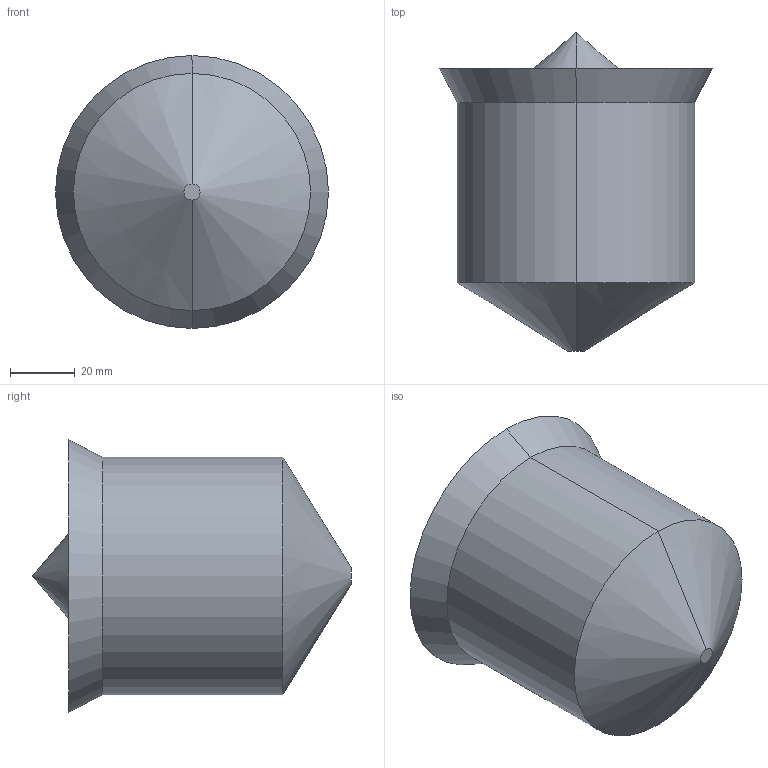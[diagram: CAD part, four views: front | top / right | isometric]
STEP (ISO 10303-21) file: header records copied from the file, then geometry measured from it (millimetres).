
FILE_DESCRIPTION (( 'STEP AP214' ), '1' );
FILE_NAME ('EDF_palhetas_sem.STEP', '2026-11-19T20:11:15', ( '' ), ( '' ), 'SwSTEP 2.0', 'SolidWorks 2026', '' );
FILE_SCHEMA (( 'AUTOMOTIVE_DESIGN' ));
Length unit declared in the file: millimetre
Products named in the file (1): EDF_palhetas_sem
Bounding box: 84 x 98 x 84 mm (x, y, z)
Volume: 316632.8 mm3; surface area: 26276.6 mm2
Topology: 1 solids, 1 shells, 11 faces, 20 edges, 12 vertices
Faces by surface type: cone 6, plane 3, cylinder 2
Entity records: 297 total; most frequent: DIRECTION 56, CARTESIAN_POINT 44, ORIENTED_EDGE 40, AXIS2_PLACEMENT_3D 24, EDGE_CURVE 20, CIRCLE 12, VERTEX_POINT 12, EDGE_LOOP 12
